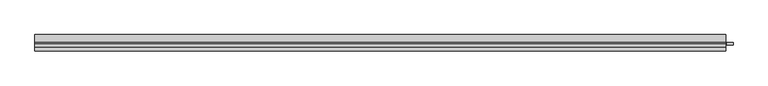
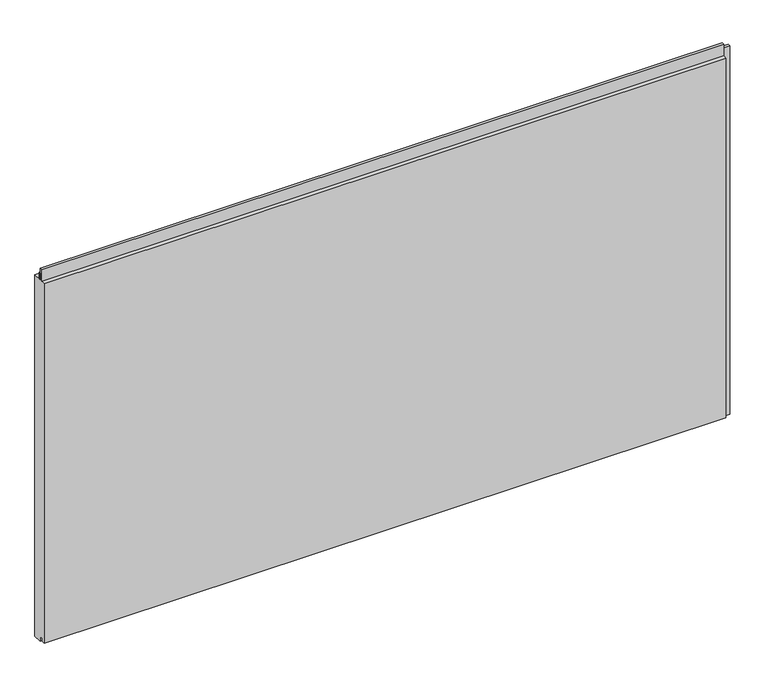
"""IFC4 building model written with IfcOpenShell, lengths in millimetres: plate geometry, Trimo_Qbiss Screen_Normal Panel-HORIZONTAL : HR - B."""

from ifc_helpers import new_model, si_unit, frame, origin, place, context, project, spatial, polyline, outline, extrude, source, transform, mapped, element, save


def plate_319040bf(model_context):
    return source(origin(), model_context, "Body", "SweptSolid", [
        extrude(outline(polyline([(1075.5, 67.8978162), (1075.5, 76.5978162), (1094.5, 76.5978162), (1094.5, 67.8978162), (1075.5, 67.8978162)])), frame((0.0, 0.0, -1.0), z_axis=(0.0, 0.0, 1.0), x_axis=(1.0, 0.0, 0.0)), (0.0, 0.0, 1.0), 1200.0),
        extrude(outline(polyline([(1072.5, 76.0), (1072.5, 71.0), (-1026.0, 71.0), (-1026.0, 76.0), (1072.5, 76.0)])), frame((0.0, 0.0, 1178.0), z_axis=(0.0, 0.0, 1.0), x_axis=(1.0, 0.0, 0.0)), (0.0, 0.0, 1.0), 21.0),
        extrude(outline(polyline([(71.0, 1177.0), (100.0, 1177.0), (100.0, 0.0), (72.0, 0.0), (72.0, 15.5), (62.0, 15.5), (62.0, 7.0), (50.0, 7.0), (50.0, 1177.0), (63.0, 1177.0), (63.0, 1214.5), (71.0, 1214.5), (71.0, 1177.0)])), frame((-1026.0, 0.0, 0.0), z_axis=(1.0, 0.0, 0.0), x_axis=(0.0, 1.0, 0.0)), (0.0, 0.0, 1.0), 2098.5),
    ])


if __name__ == "__main__":
    model = new_model("IFC4")
    model_context = context("Model", 3, world=origin())
    ifc_project = project(units=[si_unit("LENGTHUNIT", "METRE", prefix="MILLI")], contexts=[model_context])
    site = spatial("IfcSite", under=ifc_project)
    building = spatial("IfcBuilding", under=site)
    placement = place(None, origin())
    plate_shape = plate_319040bf(model_context)
    element("IfcPlate", 1, ObjectType="Trimo_Qbiss Screen_Normal Panel-HORIZONTAL : HR - B", at=placement, inside=building, context=model_context, shape_type="MappedRepresentation", body=[
        mapped(plate_shape, transform((0.0, 0.0, 0.0), x_axis=(1.0, 0.0, 0.0), y_axis=(0.0, 1.0, 0.0), z_axis=(0.0, 0.0, 1.0))),
    ])
    save(model, "model.ifc")
